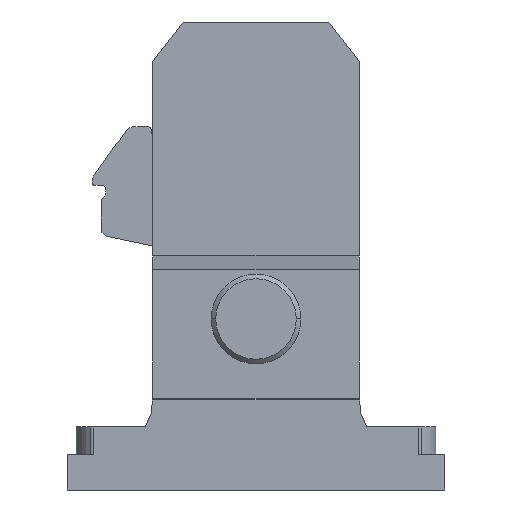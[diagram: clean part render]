
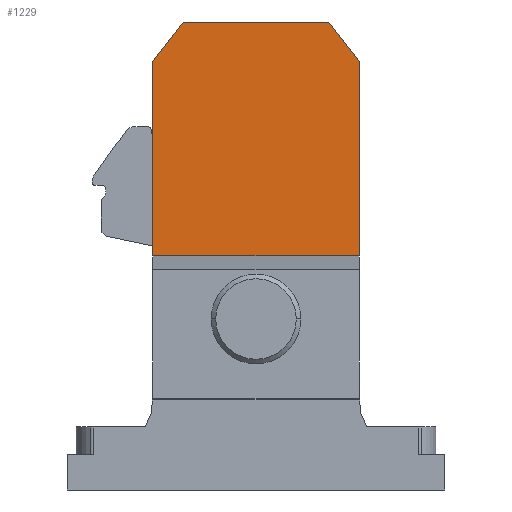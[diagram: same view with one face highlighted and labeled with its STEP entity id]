
A CAD part, left-side view. The second image highlights one B-rep face of the part: STEP entity #1229.
In plain terms, the highlighted planar face has unit normal (-1, 0, 0).
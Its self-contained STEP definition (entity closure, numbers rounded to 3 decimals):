
#4 = VERTEX_POINT ( 'NONE', #1217 ) ;
#76 = VERTEX_POINT ( 'NONE', #145 ) ;
#77 = CARTESIAN_POINT ( 'NONE',  ( -2.2, -27.501, 26. ) ) ;
#87 = LINE ( 'NONE', #683, #1690 ) ;
#145 = CARTESIAN_POINT ( 'NONE',  ( -2.2, 8.1, 52. ) ) ;
#155 = LINE ( 'NONE', #1304, #1755 ) ;
#229 = DIRECTION ( 'NONE',  ( 0., 1., 0. ) ) ;
#245 = EDGE_CURVE ( 'NONE', #1041, #925, #960, .T. ) ;
#276 = VERTEX_POINT ( 'NONE', #542 ) ;
#288 = DIRECTION ( 'NONE',  ( 0., 0., 1. ) ) ;
#302 = ORIENTED_EDGE ( 'NONE', *, *, #723, .F. ) ;
#341 = DIRECTION ( 'NONE',  ( 0., -1., 0. ) ) ;
#522 = ORIENTED_EDGE ( 'NONE', *, *, #1274, .F. ) ;
#542 = CARTESIAN_POINT ( 'NONE',  ( -2.2, -8.1, 52. ) ) ;
#616 = CARTESIAN_POINT ( 'NONE',  ( -2.2, -11.5, 26. ) ) ;
#642 = AXIS2_PLACEMENT_3D ( 'NONE', #887, #1980, #1046 ) ;
#683 = CARTESIAN_POINT ( 'NONE',  ( -2.2, 8.1, 52. ) ) ;
#723 = EDGE_CURVE ( 'NONE', #76, #276, #87, .T. ) ;
#740 = LINE ( 'NONE', #1839, #1000 ) ;
#862 = CARTESIAN_POINT ( 'NONE',  ( -2.2, -8.1, 52. ) ) ;
#887 = CARTESIAN_POINT ( 'NONE',  ( -2.2, 39.001, 52. ) ) ;
#925 = VERTEX_POINT ( 'NONE', #616 ) ;
#960 = LINE ( 'NONE', #1677, #1379 ) ;
#973 = VECTOR ( 'NONE', #229, 1000. ) ;
#1000 = VECTOR ( 'NONE', #288, 1000. ) ;
#1041 = VERTEX_POINT ( 'NONE', #1972 ) ;
#1046 = DIRECTION ( 'NONE',  ( 0., 0., 1. ) ) ;
#1054 = ORIENTED_EDGE ( 'NONE', *, *, #1445, .F. ) ;
#1114 = EDGE_CURVE ( 'NONE', #4, #76, #155, .T. ) ;
#1162 = ORIENTED_EDGE ( 'NONE', *, *, #1738, .F. ) ;
#1164 = DIRECTION ( 'NONE',  ( 0., -0.616, 0.788 ) ) ;
#1201 = DIRECTION ( 'NONE',  ( 0., 0., -1. ) ) ;
#1217 = CARTESIAN_POINT ( 'NONE',  ( -2.2, 11.5, 47.648 ) ) ;
#1229 = ADVANCED_FACE ( 'NONE', ( #1985 ), #1827, .T. ) ;
#1230 = EDGE_LOOP ( 'NONE', ( #1162, #1991, #1054, #302, #1409, #522 ) ) ;
#1274 = EDGE_CURVE ( 'NONE', #1296, #4, #740, .T. ) ;
#1296 = VERTEX_POINT ( 'NONE', #1845 ) ;
#1304 = CARTESIAN_POINT ( 'NONE',  ( -2.2, 11.5, 47.648 ) ) ;
#1379 = VECTOR ( 'NONE', #1201, 1000. ) ;
#1388 = LINE ( 'NONE', #77, #973 ) ;
#1409 = ORIENTED_EDGE ( 'NONE', *, *, #1114, .F. ) ;
#1445 = EDGE_CURVE ( 'NONE', #276, #1041, #1597, .T. ) ;
#1597 = LINE ( 'NONE', #862, #1656 ) ;
#1656 = VECTOR ( 'NONE', #1956, 1000. ) ;
#1677 = CARTESIAN_POINT ( 'NONE',  ( -2.2, -11.5, 47.648 ) ) ;
#1690 = VECTOR ( 'NONE', #341, 1000. ) ;
#1738 = EDGE_CURVE ( 'NONE', #925, #1296, #1388, .T. ) ;
#1755 = VECTOR ( 'NONE', #1164, 1000. ) ;
#1827 = PLANE ( 'NONE',  #642 ) ;
#1839 = CARTESIAN_POINT ( 'NONE',  ( -2.2, 11.5, 10. ) ) ;
#1845 = CARTESIAN_POINT ( 'NONE',  ( -2.2, 11.5, 26. ) ) ;
#1956 = DIRECTION ( 'NONE',  ( 0., -0.616, -0.788 ) ) ;
#1972 = CARTESIAN_POINT ( 'NONE',  ( -2.2, -11.5, 47.648 ) ) ;
#1980 = DIRECTION ( 'NONE',  ( -1., 0., 0. ) ) ;
#1985 = FACE_OUTER_BOUND ( 'NONE', #1230, .T. ) ;
#1991 = ORIENTED_EDGE ( 'NONE', *, *, #245, .F. ) ;
